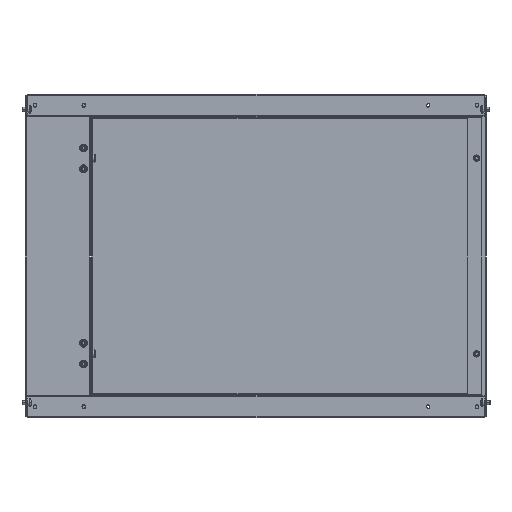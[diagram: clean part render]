
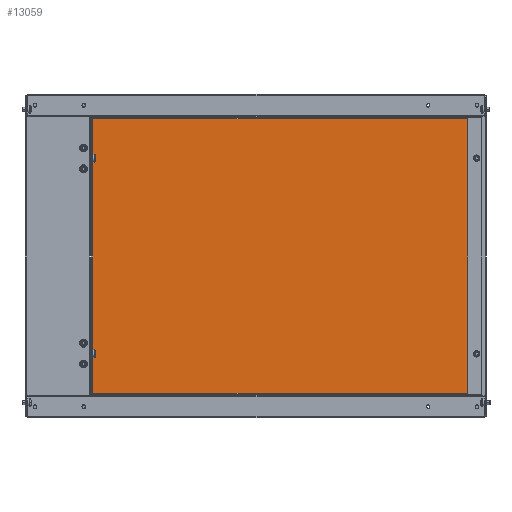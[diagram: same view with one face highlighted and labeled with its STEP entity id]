
A CAD part, left-side view. The second image highlights one B-rep face of the part: STEP entity #13059.
In plain terms, the highlighted planar face has unit normal (-1, 0, 0).
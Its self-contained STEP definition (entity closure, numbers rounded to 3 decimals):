
#510 = ORIENTED_EDGE ( 'NONE', *, *, #16205, .T. ) ;
#925 = EDGE_LOOP ( 'NONE', ( #510, #17089, #13601, #2464 ) ) ;
#2126 = CARTESIAN_POINT ( 'NONE',  ( 54.25, -194.75, -498.65 ) ) ;
#2410 = LINE ( 'NONE', #21681, #23336 ) ;
#2464 = ORIENTED_EDGE ( 'NONE', *, *, #9683, .T. ) ;
#2753 = PLANE ( 'NONE',  #18995 ) ;
#3577 = CARTESIAN_POINT ( 'NONE',  ( 54.25, 93., -288.15 ) ) ;
#4182 = CARTESIAN_POINT ( 'NONE',  ( 54.25, -194.75, -288.15 ) ) ;
#4249 = CARTESIAN_POINT ( 'NONE',  ( 54.25, -194.75, -709.15 ) ) ;
#4828 = VERTEX_POINT ( 'NONE', #4182 ) ;
#4988 = DIRECTION ( 'NONE',  ( -1., 0., 0. ) ) ;
#8022 = VECTOR ( 'NONE', #19387, 1000. ) ;
#8423 = LINE ( 'NONE', #2126, #14214 ) ;
#8720 = DIRECTION ( 'NONE',  ( 0., 0., -1. ) ) ;
#9187 = CARTESIAN_POINT ( 'NONE',  ( 54.25, 93., -709.15 ) ) ;
#9683 = EDGE_CURVE ( 'NONE', #22986, #4828, #8423, .T. ) ;
#11019 = FACE_OUTER_BOUND ( 'NONE', #925, .T. ) ;
#11994 = EDGE_CURVE ( 'NONE', #21182, #22986, #19798, .T. ) ;
#12429 = VECTOR ( 'NONE', #18539, 1000. ) ;
#13059 = ADVANCED_FACE ( 'NONE', ( #11019 ), #2753, .T. ) ;
#13185 = VERTEX_POINT ( 'NONE', #26764 ) ;
#13521 = DIRECTION ( 'NONE',  ( 0., 1., 0. ) ) ;
#13601 = ORIENTED_EDGE ( 'NONE', *, *, #11994, .T. ) ;
#14214 = VECTOR ( 'NONE', #16952, 1000. ) ;
#16205 = EDGE_CURVE ( 'NONE', #4828, #13185, #22693, .T. ) ;
#16952 = DIRECTION ( 'NONE',  ( 0., 0., 1. ) ) ;
#17089 = ORIENTED_EDGE ( 'NONE', *, *, #26932, .T. ) ;
#17848 = CARTESIAN_POINT ( 'NONE',  ( 54.25, 380.75, -709.15 ) ) ;
#18539 = DIRECTION ( 'NONE',  ( 0., 1., 0. ) ) ;
#18995 = AXIS2_PLACEMENT_3D ( 'NONE', #21621, #4988, #13521 ) ;
#19387 = DIRECTION ( 'NONE',  ( 0., -1., 0. ) ) ;
#19798 = LINE ( 'NONE', #9187, #8022 ) ;
#21182 = VERTEX_POINT ( 'NONE', #17848 ) ;
#21621 = CARTESIAN_POINT ( 'NONE',  ( 54.25, 93., -498.65 ) ) ;
#21681 = CARTESIAN_POINT ( 'NONE',  ( 54.25, 380.75, -498.65 ) ) ;
#22693 = LINE ( 'NONE', #3577, #12429 ) ;
#22986 = VERTEX_POINT ( 'NONE', #4249 ) ;
#23336 = VECTOR ( 'NONE', #8720, 1000. ) ;
#26764 = CARTESIAN_POINT ( 'NONE',  ( 54.25, 380.75, -288.15 ) ) ;
#26932 = EDGE_CURVE ( 'NONE', #13185, #21182, #2410, .T. ) ;
